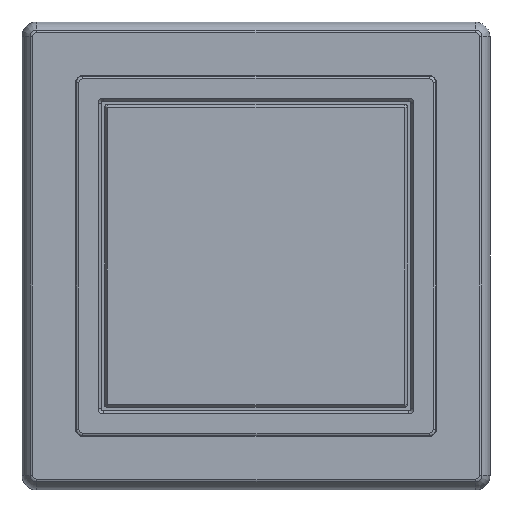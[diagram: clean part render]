
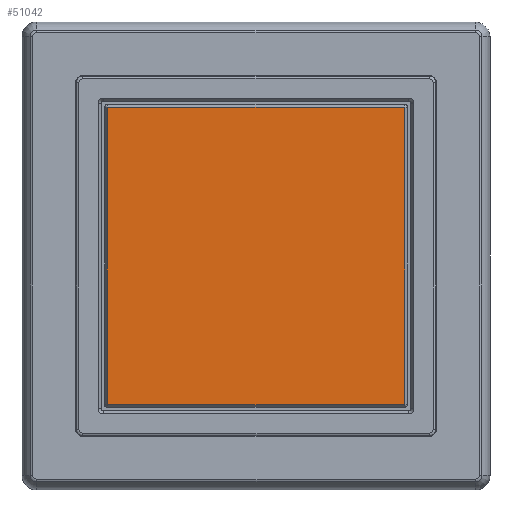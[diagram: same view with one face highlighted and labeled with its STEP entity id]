
A CAD part, top view. The second image highlights one B-rep face of the part: STEP entity #51042.
In plain terms, the highlighted planar face has unit normal (0, 0, 1).
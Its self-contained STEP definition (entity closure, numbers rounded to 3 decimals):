
#1499=ELLIPSE('',#54689,0.645,0.5);
#1500=ELLIPSE('',#54692,0.645,0.5);
#1501=ELLIPSE('',#54695,0.645,0.5);
#1502=ELLIPSE('',#54698,0.645,0.5);
#5106=FACE_OUTER_BOUND('',#8138,.T.);
#8138=EDGE_LOOP('',(#35091,#35092,#35093,#35094,#35095,#35096,#35097,#35098));
#13692=LINE('',#86920,#16899);
#13694=LINE('',#86927,#16901);
#13698=LINE('',#86936,#16905);
#13701=LINE('',#86944,#16908);
#16899=VECTOR('',#62247,79.979);
#16901=VECTOR('',#62255,79.979);
#16905=VECTOR('',#62265,79.979);
#16908=VECTOR('',#62274,79.979);
#20467=VERTEX_POINT('',#86916);
#20468=VERTEX_POINT('',#86918);
#20469=VERTEX_POINT('',#86922);
#20470=VERTEX_POINT('',#86926);
#20471=VERTEX_POINT('',#86930);
#20472=VERTEX_POINT('',#86934);
#20473=VERTEX_POINT('',#86938);
#20474=VERTEX_POINT('',#86942);
#25711=EDGE_CURVE('',#20467,#20468,#13692,.T.);
#25713=EDGE_CURVE('',#20469,#20467,#1499,.T.);
#25714=EDGE_CURVE('',#20470,#20469,#13694,.T.);
#25717=EDGE_CURVE('',#20471,#20470,#1500,.T.);
#25719=EDGE_CURVE('',#20472,#20471,#13698,.T.);
#25721=EDGE_CURVE('',#20473,#20472,#1501,.T.);
#25723=EDGE_CURVE('',#20474,#20473,#13701,.T.);
#25724=EDGE_CURVE('',#20468,#20474,#1502,.T.);
#35091=ORIENTED_EDGE('',*,*,#25713,.T.);
#35092=ORIENTED_EDGE('',*,*,#25711,.T.);
#35093=ORIENTED_EDGE('',*,*,#25724,.T.);
#35094=ORIENTED_EDGE('',*,*,#25723,.T.);
#35095=ORIENTED_EDGE('',*,*,#25721,.T.);
#35096=ORIENTED_EDGE('',*,*,#25719,.T.);
#35097=ORIENTED_EDGE('',*,*,#25717,.T.);
#35098=ORIENTED_EDGE('',*,*,#25714,.T.);
#46737=PLANE('',#54699);
#51042=ADVANCED_FACE('',(#5106),#46737,.T.);
#54689=AXIS2_PLACEMENT_3D('',#86924,#62251,#62252);
#54692=AXIS2_PLACEMENT_3D('',#86932,#62260,#62261);
#54695=AXIS2_PLACEMENT_3D('',#86940,#62269,#62270);
#54698=AXIS2_PLACEMENT_3D('',#86946,#62277,#62278);
#54699=AXIS2_PLACEMENT_3D('',#86947,#62279,#62280);
#62247=DIRECTION('',(0.,-1.,0.));
#62251=DIRECTION('center_axis',(0.,0.,1.));
#62252=DIRECTION('ref_axis',(-0.707,0.707,0.));
#62255=DIRECTION('',(-1.,0.,0.));
#62260=DIRECTION('center_axis',(0.,0.,1.));
#62261=DIRECTION('ref_axis',(0.707,0.707,0.));
#62265=DIRECTION('',(0.,1.,0.));
#62269=DIRECTION('center_axis',(0.,0.,1.));
#62270=DIRECTION('ref_axis',(0.707,-0.707,0.));
#62274=DIRECTION('',(1.,0.,0.));
#62277=DIRECTION('center_axis',(0.,0.,1.));
#62278=DIRECTION('ref_axis',(-0.707,-0.707,0.));
#62279=DIRECTION('center_axis',(0.,0.,1.));
#62280=DIRECTION('ref_axis',(1.,0.,0.));
#86916=CARTESIAN_POINT('',(-40.423,39.99,8.));
#86918=CARTESIAN_POINT('',(-40.423,-39.99,8.));
#86920=CARTESIAN_POINT('',(-40.423,39.99,8.));
#86922=CARTESIAN_POINT('',(-39.99,40.423,8.));
#86924=CARTESIAN_POINT('Origin',(-39.845,39.845,8.));
#86926=CARTESIAN_POINT('',(39.99,40.423,8.));
#86927=CARTESIAN_POINT('',(39.99,40.423,8.));
#86930=CARTESIAN_POINT('',(40.423,39.99,8.));
#86932=CARTESIAN_POINT('Origin',(39.845,39.845,8.));
#86934=CARTESIAN_POINT('',(40.423,-39.99,8.));
#86936=CARTESIAN_POINT('',(40.423,-39.99,8.));
#86938=CARTESIAN_POINT('',(39.99,-40.423,8.));
#86940=CARTESIAN_POINT('Origin',(39.845,-39.845,8.));
#86942=CARTESIAN_POINT('',(-39.99,-40.423,8.));
#86944=CARTESIAN_POINT('',(-39.99,-40.423,8.));
#86946=CARTESIAN_POINT('Origin',(-39.845,-39.845,8.));
#86947=CARTESIAN_POINT('Origin',(0.,0.,8.));
